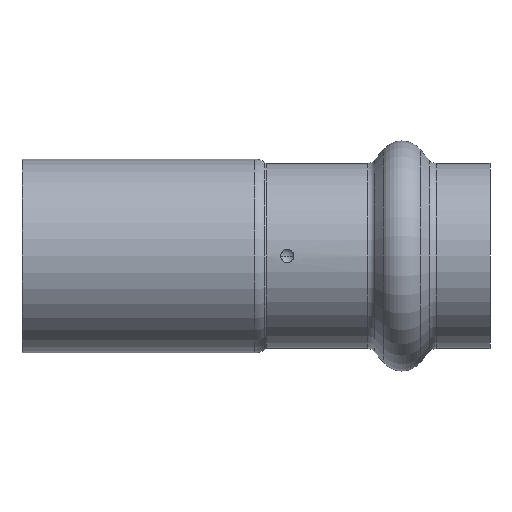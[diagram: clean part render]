
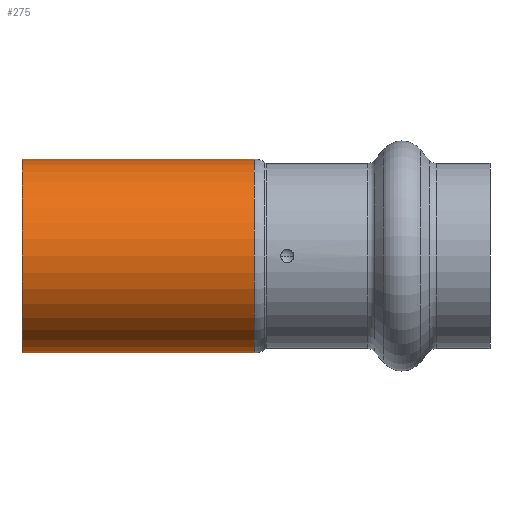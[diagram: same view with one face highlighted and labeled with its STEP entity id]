
A CAD part, front view. The second image highlights one B-rep face of the part: STEP entity #275.
In plain terms, the highlighted cylindrical face has radius 11 mm (diameter 22 mm), a partial arc.
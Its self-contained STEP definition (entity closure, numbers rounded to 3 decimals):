
#54 = DIRECTION ( 'NONE',  ( -1., 0., 0. ) ) ;
#171 = EDGE_CURVE ( 'NONE', #522, #565, #558, .T. ) ;
#177 = LINE ( 'NONE', #1326, #1069 ) ;
#181 = LINE ( 'NONE', #514, #1072 ) ;
#238 = EDGE_CURVE ( 'NONE', #522, #1112, #181, .T. ) ;
#275 = ADVANCED_FACE ( 'NONE', ( #800 ), #1015, .T. ) ;
#284 = VERTEX_POINT ( 'NONE', #1440 ) ;
#369 = CARTESIAN_POINT ( 'NONE',  ( 26.369, 0., 11. ) ) ;
#415 = AXIS2_PLACEMENT_3D ( 'NONE', #1184, #1296, #527 ) ;
#458 = AXIS2_PLACEMENT_3D ( 'NONE', #633, #1397, #754 ) ;
#514 = CARTESIAN_POINT ( 'NONE',  ( -4.079, 0., -11. ) ) ;
#522 = VERTEX_POINT ( 'NONE', #1166 ) ;
#527 = DIRECTION ( 'NONE',  ( 0., 0., -1. ) ) ;
#558 = CIRCLE ( 'NONE', #415, 11. ) ;
#565 = VERTEX_POINT ( 'NONE', #369 ) ;
#582 = EDGE_LOOP ( 'NONE', ( #1108, #1361, #702, #1275 ) ) ;
#600 = CARTESIAN_POINT ( 'NONE',  ( 0., 0., -11. ) ) ;
#633 = CARTESIAN_POINT ( 'NONE',  ( 0., 0., 0. ) ) ;
#702 = ORIENTED_EDGE ( 'NONE', *, *, #957, .T. ) ;
#754 = DIRECTION ( 'NONE',  ( 0., 0., 1. ) ) ;
#800 = FACE_OUTER_BOUND ( 'NONE', #582, .T. ) ;
#887 = CARTESIAN_POINT ( 'NONE',  ( -4.079, 0., 0. ) ) ;
#957 = EDGE_CURVE ( 'NONE', #565, #284, #177, .T. ) ;
#968 = DIRECTION ( 'NONE',  ( 0., 0., 1. ) ) ;
#1015 = CYLINDRICAL_SURFACE ( 'NONE', #1099, 11. ) ;
#1069 = VECTOR ( 'NONE', #1342, 1000. ) ;
#1072 = VECTOR ( 'NONE', #1425, 1000. ) ;
#1099 = AXIS2_PLACEMENT_3D ( 'NONE', #887, #54, #968 ) ;
#1108 = ORIENTED_EDGE ( 'NONE', *, *, #238, .F. ) ;
#1112 = VERTEX_POINT ( 'NONE', #600 ) ;
#1166 = CARTESIAN_POINT ( 'NONE',  ( 26.369, 0., -11. ) ) ;
#1184 = CARTESIAN_POINT ( 'NONE',  ( 26.369, 0., 0. ) ) ;
#1206 = EDGE_CURVE ( 'NONE', #1112, #284, #1419, .T. ) ;
#1275 = ORIENTED_EDGE ( 'NONE', *, *, #1206, .F. ) ;
#1296 = DIRECTION ( 'NONE',  ( -1., 0., 0. ) ) ;
#1326 = CARTESIAN_POINT ( 'NONE',  ( -4.079, 0., 11. ) ) ;
#1342 = DIRECTION ( 'NONE',  ( -1., 0., 0. ) ) ;
#1361 = ORIENTED_EDGE ( 'NONE', *, *, #171, .T. ) ;
#1397 = DIRECTION ( 'NONE',  ( -1., 0., 0. ) ) ;
#1419 = CIRCLE ( 'NONE', #458, 11. ) ;
#1425 = DIRECTION ( 'NONE',  ( -1., 0., 0. ) ) ;
#1440 = CARTESIAN_POINT ( 'NONE',  ( 0., 0., 11. ) ) ;
